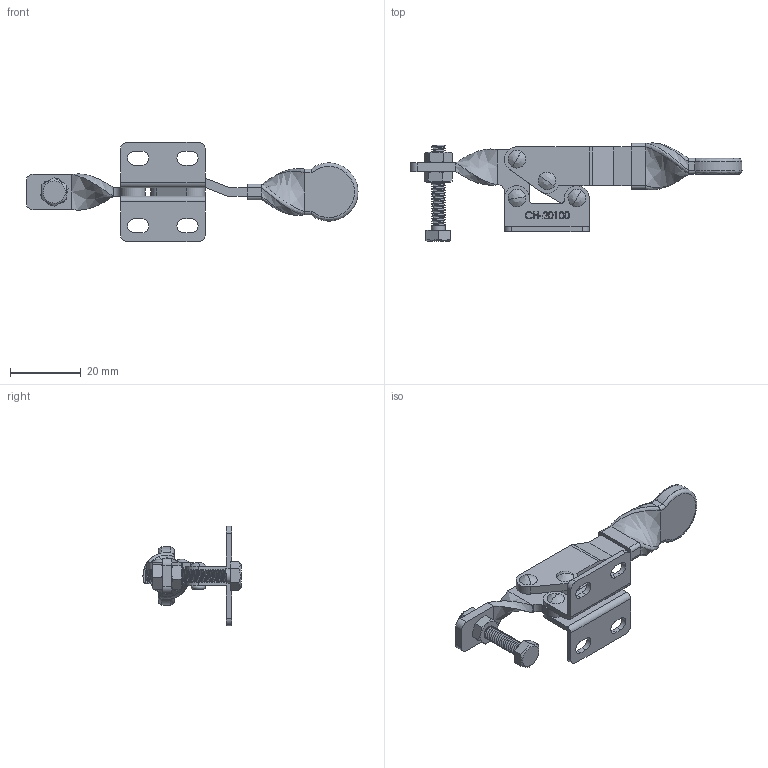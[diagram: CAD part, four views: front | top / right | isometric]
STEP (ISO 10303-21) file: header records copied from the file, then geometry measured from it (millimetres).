
FILE_DESCRIPTION(/* description */ ('STEP AP203'),/* implementation_level */ '2;1');
FILE_NAME(/* name */ 'E:\STRONA\Horizontal toggle clamp\CH-20100\CH-20100_ZAMKNIETY.stp',/* time_stamp */ '2019-01-15T15:57:16+01:00',/* author */ ('Admin'),/* organization */ ('Î¢ÈíÖÐ¹ú'),/* preprocessor_version */ 'ST-DEVELOPER v17.2',/* originating_system */ 'Autodesk Inventor 2019',/* authorisation */ '');
FILE_SCHEMA (('AUTOMOTIVE_DESIGN { 1 0 10303 214 3 1 1 }'));
Products named in the file (10): CH-20100_ZAMKNIETY; CH-20100-03 HANDLE; CH-SA-042507 SPINDLE SUPPLIED; CH-20100-02 SOLID BAR; CH-20100-05; CH-20100-01 FLANGED BASE; M4 Nut; CH-20100-08; CH-20100-06; CH-20100-04 CONNECTING-PLATE
Assembly tree (12 placements, depth 2):
  CH-20100_ZAMKNIETY
    CH-20100-03 HANDLE
    CH-20100-08  x2
    CH-20100-06  x2
    CH-SA-042507 SPINDLE SUPPLIED
    CH-20100-02 SOLID BAR
    CH-20100-05
    M4 Nut  x2
    CH-20100-01 FLANGED BASE
    CH-20100-04 CONNECTING-PLATE
Bounding box: 94.15 x 27.81 x 28.2 mm (x, y, z)
Volume: 6037.2 mm3; surface area: 9164.9 mm2
Topology: 13 solids, 13 shells, 549 faces, 1553 edges, 1050 vertices
Faces by surface type: plane 236, bspline 213, cylinder 77, cone 15, torus 8
Full cylindrical faces by diameter (mm): 0.812 x1, 0.931 x1, 2.4 x4, 3 x14, 3.2 x6, 4 x1
Entity records: 39310 total; most frequent: CARTESIAN_POINT 26840, ORIENTED_EDGE 2904, DIRECTION 1852, EDGE_CURVE 1452, VERTEX_POINT 988, LINE 782, VECTOR 782, EDGE_LOOP 576
